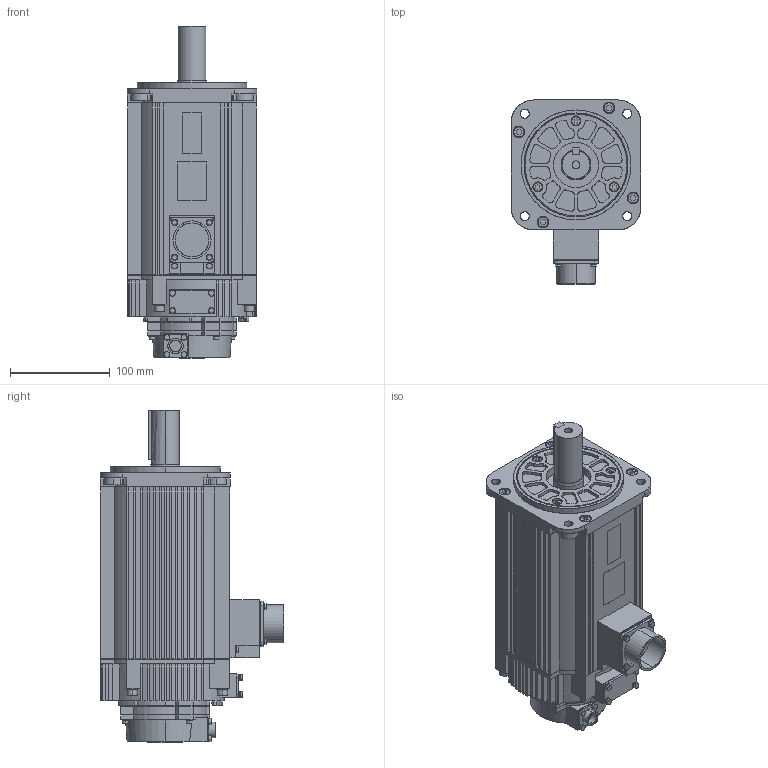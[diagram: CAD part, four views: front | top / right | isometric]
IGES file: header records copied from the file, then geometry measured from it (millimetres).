
Start section: SolidWorks IGES file using analytic representation for surfaces
Global section: file name: D:\YASKAWA\sgmsv_40a_a6c.IGS; native system: SolidWorks 2006 by SolidWorks Corporation; preprocessor: SolidWorks 2006 by SolidWorks Corporation; author: yamanouchi; date: 110320.204820; units: millimetre
Bounding box: 130 x 183.82 x 332.1 mm (x, y, z)
Surface area: 257300.5 mm2 (no closed solid volume)
Topology: 0 solids, 0 shells, 1208 faces, 14048 edges, 14045 vertices
Faces by surface type: bspline 774, revolution 434
